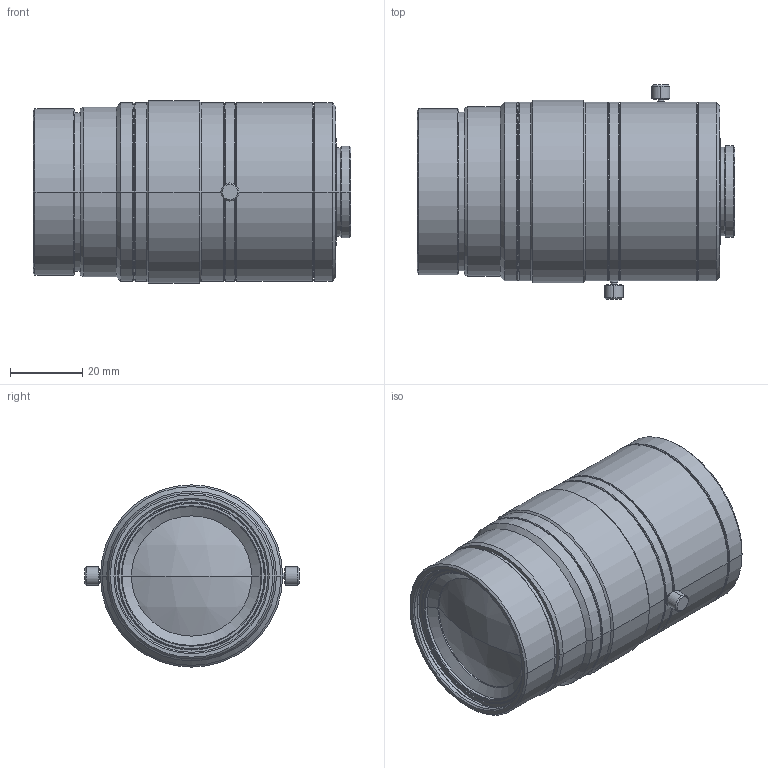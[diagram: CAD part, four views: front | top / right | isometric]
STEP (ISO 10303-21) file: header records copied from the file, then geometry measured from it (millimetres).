
FILE_DESCRIPTION (( 'STEP AP203' ), '1' );
FILE_NAME ('VS-LLD20.STEP', '2017-05-29T01:16:27', ( '' ), ( '' ), 'SwSTEP 2.0', 'SolidWorks 2017', '' );
FILE_SCHEMA (( 'CONFIG_CONTROL_DESIGN' ));
Length unit declared in the file: millimetre
Products named in the file (1): VS-LLD20
Bounding box: 87.97 x 59.35 x 50.5 mm (x, y, z)
Volume: 144814.2 mm3; surface area: 23890.8 mm2
Topology: 1 solids, 1 shells, 177 faces, 358 edges, 208 vertices
Faces by surface type: cone 84, cylinder 62, plane 27, sphere 4
Entity records: 4727 total; most frequent: DIRECTION 908, CARTESIAN_POINT 812, ORIENTED_EDGE 716, AXIS2_PLACEMENT_3D 380, EDGE_CURVE 358, VERTEX_POINT 208, EDGE_LOOP 202, CIRCLE 202
